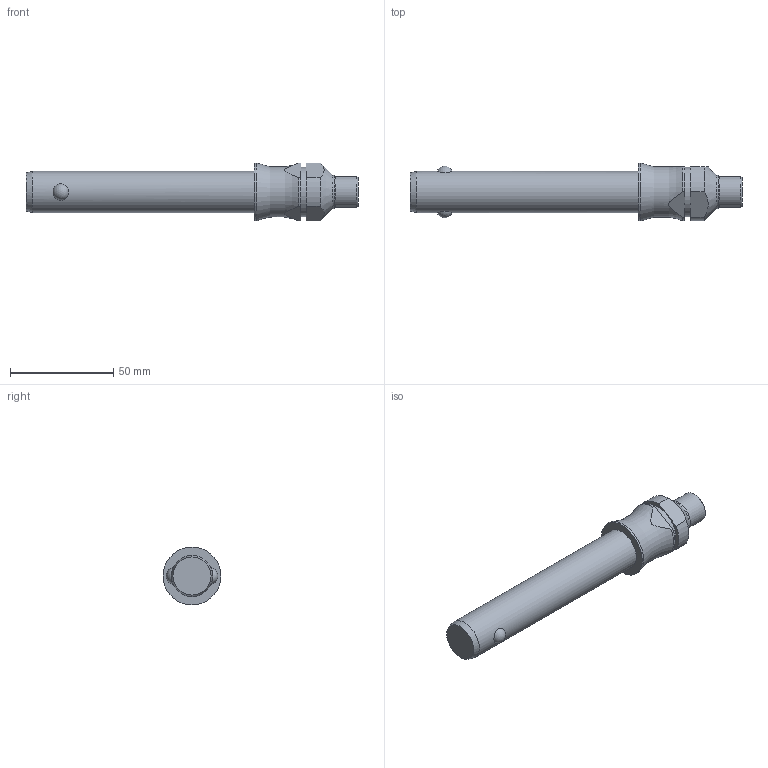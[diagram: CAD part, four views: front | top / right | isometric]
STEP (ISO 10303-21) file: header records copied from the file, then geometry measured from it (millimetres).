
FILE_DESCRIPTION( ( 'STEP AP203' ), '1' );
FILE_NAME( 'C:/Temp/Ganter_Step_05_03_2020/data/3_1/gn113_3/Stainless Steel-Ball lock pin GN 113.3-20-90 (deactivated).stp', '2020-03-12T08:19:04', ( 'License CC BY-ND 4.0' ), ( 'CADENAS' ), ' ', 'PARTsolutions', ' ' );
FILE_SCHEMA( ( 'CONFIG_CONTROL_DESIGN' ) );
Length unit declared in the file: millimetre
Products named in the file (1): _Stainless Steel-Ball lock pin GN 113.3-20-90 (deactivated)
Bounding box: 160.6 x 28 x 28 mm (x, y, z)
Volume: 55515.6 mm3; surface area: 11707 mm2
Topology: 1 solids, 1 shells, 29 faces, 62 edges, 40 vertices
Faces by surface type: plane 11, cylinder 11, cone 4, sphere 2, torus 1
Full cylindrical faces by diameter (mm): 15 x1, 16 x1, 20 x1, 24 x1, 28 x1
Entity records: 1010 total; most frequent: CARTESIAN_POINT 380, DIRECTION 126, ORIENTED_EDGE 100, AXIS2_PLACEMENT_3D 54, EDGE_CURVE 50, EDGE_LOOP 44, VERTEX_POINT 38, FACE_OUTER_BOUND 35
